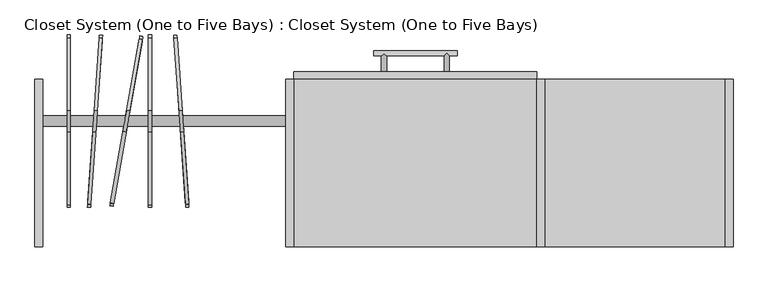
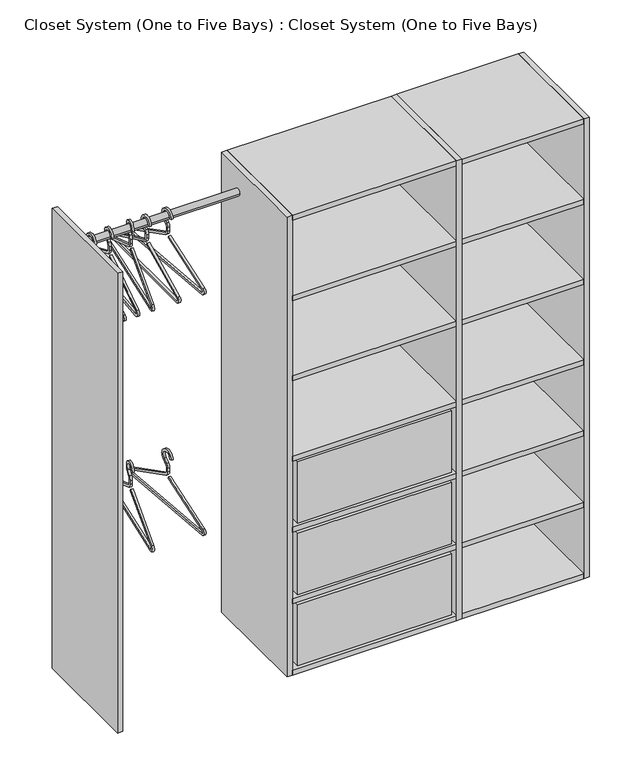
"""IFC4 building model written with IfcOpenShell, lengths in millimetres: furniture geometry, Closet System (One to Five Bays) : Closet System (One to Five Bays)."""

from ifc_helpers import new_model, si_unit, point, frame, frame_2d, origin, place, context, project, spatial, polyline, circle_curve, ellipse_curve, trimmed, segment, composite_curve, outline, extrude, faceted_brep, source, transform, mapped, element, save
from ifc_brep_helpers import plane_surface, cylinder_surface, advanced_brep


def closet_system_one_to_five_bays_closet_system_one_to_five_4d39121e(model_context):
    return source(origin(), model_context, "Body", "SolidModel", [
        extrude(outline(polyline([(1695.45, 0.0), (1676.4, 0.0), (1676.4, 406.4), (1695.45, 406.4), (1695.45, 0.0)])), frame((0.0, 0.0, 82.55), z_axis=(0.0, 0.0, 1.0), x_axis=(1.0, 0.0, 0.0)), (0.0, 0.0, 1.0), 1746.25),
        extrude(outline(polyline([(1238.25, 0.0), (1219.2, 0.0), (1219.2, 406.4), (1238.25, 406.4), (1238.25, 0.0)])), frame((0.0, 0.0, 82.55), z_axis=(0.0, 0.0, 1.0), x_axis=(1.0, 0.0, 0.0)), (0.0, 0.0, 1.0), 1746.25),
        extrude(outline(polyline([(628.65, 0.0), (609.6, 0.0), (609.6, 406.4), (628.65, 406.4), (628.65, 0.0)])), frame((0.0, 0.0, 82.55), z_axis=(0.0, 0.0, 1.0), x_axis=(1.0, 0.0, 0.0)), (0.0, 0.0, 1.0), 1746.25),
        extrude(outline(polyline([(19.05, 0.0), (0.0, 0.0), (0.0, 406.4), (19.05, 406.4), (19.05, 0.0)])), frame((0.0, 0.0, 82.55), z_axis=(0.0, 0.0, 1.0), x_axis=(1.0, 0.0, 0.0)), (0.0, 0.0, 1.0), 1746.25),
        faceted_brep([(1238.25, 406.4, 1200.15), (1238.25, 387.35, 1200.15), (1238.25, 0.0, 1200.15), (1238.25, 0.0, 1219.2), (1238.25, 387.35, 1219.2), (1238.25, 406.4, 1219.2), (1676.4, 0.0, 1200.15), (1676.4, 387.35, 1200.15), (1676.4, 406.4, 1200.15), (1676.4, 406.4, 1219.2), (1676.4, 387.35, 1219.2), (1676.4, 0.0, 1219.2)], [[[0, 1, 2, 3, 4, 5]], [[6, 7, 8, 9, 10, 11]], [[2, 1, 0, 8, 7, 6]], [[5, 9, 8, 0]], [[5, 4, 3, 11, 10, 9]], [[2, 6, 11, 3]]]),
        faceted_brep([(1238.25, 406.4, 1504.95), (1238.25, 387.35, 1504.95), (1238.25, 0.0, 1504.95), (1238.25, 0.0, 1524.0), (1238.25, 387.35, 1524.0), (1238.25, 406.4, 1524.0), (1676.4, 0.0, 1504.95), (1676.4, 387.35, 1504.95), (1676.4, 406.4, 1504.95), (1676.4, 406.4, 1524.0), (1676.4, 387.35, 1524.0), (1676.4, 0.0, 1524.0)], [[[0, 1, 2, 3, 4, 5]], [[6, 7, 8, 9, 10, 11]], [[2, 1, 0, 8, 7, 6]], [[5, 9, 8, 0]], [[5, 4, 3, 11, 10, 9]], [[2, 6, 11, 3]]]),
        faceted_brep([(1238.25, 406.4, 624.4166667), (1238.25, 387.35, 624.4166667), (1238.25, 0.0, 624.4166667), (1238.25, 0.0, 643.4666667), (1238.25, 387.35, 643.4666667), (1238.25, 406.4, 643.4666667), (1676.4, 0.0, 624.4166667), (1676.4, 387.35, 624.4166667), (1676.4, 406.4, 624.4166667), (1676.4, 406.4, 643.4666667), (1676.4, 387.35, 643.4666667), (1676.4, 0.0, 643.4666667)], [[[0, 1, 2, 3, 4, 5]], [[6, 7, 8, 9, 10, 11]], [[2, 1, 0, 8, 7, 6]], [[5, 9, 8, 0]], [[5, 4, 3, 11, 10, 9]], [[2, 6, 11, 3]]]),
        faceted_brep([(1238.25, 406.4, 353.4833333), (1238.25, 387.35, 353.4833333), (1238.25, 0.0, 353.4833333), (1238.25, 0.0, 372.5333333), (1238.25, 387.35, 372.5333333), (1238.25, 406.4, 372.5333333), (1676.4, 0.0, 372.5333333), (1676.4, 387.35, 372.5333333), (1676.4, 406.4, 372.5333333), (1676.4, 0.0, 353.4833333), (1676.4, 387.35, 353.4833333), (1676.4, 406.4, 353.4833333)], [[[0, 1, 2, 3, 4, 5]], [[5, 4, 3, 6, 7, 8]], [[2, 9, 6, 3]], [[9, 10, 11, 8, 7, 6]], [[2, 1, 0, 11, 10, 9]], [[5, 8, 11, 0]]]),
        faceted_brep([(1238.25, 406.4, 82.55), (1238.25, 387.35, 82.55), (1238.25, 0.0, 82.55), (1238.25, 0.0, 101.6), (1238.25, 387.35, 101.6), (1238.25, 406.4, 101.6), (1676.4, 0.0, 82.55), (1676.4, 387.35, 82.55), (1676.4, 406.4, 82.55), (1676.4, 406.4, 101.6), (1676.4, 387.35, 101.6), (1676.4, 0.0, 101.6)], [[[0, 1, 2, 3, 4, 5]], [[6, 7, 8, 9, 10, 11]], [[2, 1, 0, 8, 7, 6]], [[5, 9, 8, 0]], [[5, 4, 3, 11, 10, 9]], [[2, 6, 11, 3]]]),
        extrude(outline(polyline([(1676.4, 406.4), (1676.4, 0.0), (1238.25, 0.0), (1238.25, 406.4), (1676.4, 406.4)])), frame((0.0, 0.0, 895.35), z_axis=(0.0, 0.0, 1.0), x_axis=(1.0, 0.0, 0.0)), (0.0, 0.0, 1.0), 19.05),
        extrude(outline(polyline([(1676.4, 406.4), (1676.4, 0.0), (1238.25, 0.0), (1238.25, 406.4), (1676.4, 406.4)])), frame((0.0, 0.0, 1809.75), z_axis=(0.0, 0.0, 1.0), x_axis=(1.0, 0.0, 0.0)), (0.0, 0.0, 1.0), 19.05),
        advanced_brep(
        [(1006.475, 425.45, 769.4083333), (993.775, 425.45, 769.4083333), (1006.475, 463.55, 769.4083333), (1000.125, 469.9, 775.7583333), (993.775, 463.55, 769.4083333), (1000.125, 469.9, 763.0583333), (1025.525, 463.55, 769.4083333), (1025.525, 476.25, 769.4083333), (822.325, 463.55, 769.4083333), (822.325, 476.25, 769.4083333), (841.375, 463.55, 769.4083333), (847.725, 469.9, 775.7583333), (854.075, 463.55, 769.4083333), (847.725, 469.9, 763.0583333), (841.375, 425.45, 769.4083333), (854.075, 425.45, 769.4083333)],
        [
            (0, 1, circle_curve(frame((1000.125, 425.45, 769.4083333), z_axis=(0.0, -1.0, 0.0), x_axis=(-1.0, 0.0, 0.0)), 6.35)),
            (1, 0, circle_curve(frame((1000.125, 425.45, 769.4083333), z_axis=(0.0, -1.0, 0.0), x_axis=(-1.0, 0.0, 0.0)), 6.35)),
            (0, 2),
            (2, 3, ellipse_curve(frame((1000.125, 469.9, 769.4083333), z_axis=(-0.7071067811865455, -0.7071067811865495, 0.0), x_axis=(-0.7071067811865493, 0.7071067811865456, 0.0)), 8.9802561, 6.35)),
            (3, 4, ellipse_curve(frame((1000.125, 469.9, 769.4083333), z_axis=(0.7071067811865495, -0.7071067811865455, 0.0), x_axis=(0.7071067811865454, 0.7071067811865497, 0.0)), 8.9802561, 6.35)),
            (4, 1),
            (4, 5, ellipse_curve(frame((1000.125, 469.9, 769.4083333), z_axis=(0.7071067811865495, -0.7071067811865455, 0.0), x_axis=(0.7071067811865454, 0.7071067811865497, 0.0)), 8.9802561, 6.35)),
            (5, 2, ellipse_curve(frame((1000.125, 469.9, 769.4083333), z_axis=(-0.7071067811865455, -0.7071067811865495, 0.0), x_axis=(-0.7071067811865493, 0.7071067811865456, 0.0)), 8.9802561, 6.35)),
            (6, 7, circle_curve(frame((1025.525, 469.9, 769.4083333), z_axis=(1.0, 0.0, 0.0), x_axis=(0.0, 1.0, 0.0)), 6.35)),
            (7, 6, circle_curve(frame((1025.525, 469.9, 769.4083333), z_axis=(1.0, 0.0, 0.0), x_axis=(0.0, 1.0, 0.0)), 6.35)),
            (8, 9, circle_curve(frame((822.325, 469.9, 769.4083333), z_axis=(-1.0, 0.0, 0.0), x_axis=(0.0, 1.0, 0.0)), 6.35)),
            (9, 8, circle_curve(frame((822.325, 469.9, 769.4083333), z_axis=(-1.0, 0.0, 0.0), x_axis=(0.0, 1.0, 0.0)), 6.35)),
            (7, 9),
            (8, 10),
            (10, 11, ellipse_curve(frame((847.725, 469.9, 769.4083333), z_axis=(-0.7071067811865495, 0.7071067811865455, 0.0), x_axis=(0.7071067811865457, 0.7071067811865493, 0.0)), 8.9802561, 6.35)),
            (11, 12, ellipse_curve(frame((847.725, 469.9, 769.4083333), z_axis=(0.7071067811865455, 0.7071067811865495, 0.0), x_axis=(0.7071067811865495, -0.7071067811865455, 0.0)), 8.9802561, 6.35)),
            (12, 4),
            (2, 6),
            (12, 13, ellipse_curve(frame((847.725, 469.9, 769.4083333), z_axis=(0.7071067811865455, 0.7071067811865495, 0.0), x_axis=(0.7071067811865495, -0.7071067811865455, 0.0)), 8.9802561, 6.35)),
            (13, 10, ellipse_curve(frame((847.725, 469.9, 769.4083333), z_axis=(-0.7071067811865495, 0.7071067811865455, 0.0), x_axis=(0.7071067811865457, 0.7071067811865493, 0.0)), 8.9802561, 6.35)),
            (14, 15, circle_curve(frame((847.725, 425.45, 769.4083333), z_axis=(0.0, -1.0, 0.0), x_axis=(1.0, 0.0, 0.0)), 6.35)),
            (15, 14, circle_curve(frame((847.725, 425.45, 769.4083333), z_axis=(0.0, -1.0, 0.0), x_axis=(1.0, 0.0, 0.0)), 6.35)),
            (15, 12),
            (10, 14),
        ],
        [
            plane_surface(frame((1000.125, 425.45, 769.4083333), z_axis=(0.0, -1.0, 0.0), x_axis=(0.0, 0.0, 1.0))),
            cylinder_surface(frame((1000.125, 469.9, 769.4083333), z_axis=(0.0, 1.0, 0.0), x_axis=(-1.0, 0.0, 0.0)), 6.35),
            plane_surface(frame((1025.525, 469.9, 769.4083333), z_axis=(1.0, 0.0, 0.0), x_axis=(0.0, 0.0, 1.0))),
            plane_surface(frame((822.325, 469.9, 769.4083333), z_axis=(-1.0, 0.0, 0.0), x_axis=(0.0, 0.0, 1.0))),
            cylinder_surface(frame((1025.525, 469.9, 769.4083333), z_axis=(1.0, 0.0, 0.0), x_axis=(0.0, 1.0, 0.0)), 6.35),
            plane_surface(frame((847.725, 425.45, 769.4083333), z_axis=(0.0, -1.0, 0.0), x_axis=(0.0, 0.0, 1.0))),
            cylinder_surface(frame((847.725, 469.9, 769.4083333), z_axis=(0.0, 1.0, 0.0), x_axis=(1.0, 0.0, 0.0)), 6.35),
        ],
        [
            (0, [[1, 2]]),
            (1, [[3, 4, 5, 6, -1]]),
            (1, [[-6, 7, 8, -3, -2]]),
            (2, [[9, 10]]),
            (3, [[11, 12]]),
            (4, [[13, -11, 14, 15, 16, 17, -5, -4, 18, -10]]),
            (4, [[-18, -8, -7, -17, 19, 20, -14, -12, -13, -9]]),
            (5, [[21, 22]]),
            (6, [[23, -16, -15, 24, -22]]),
            (6, [[-24, -20, -19, -23, -21]]),
        ],
    ),
        extrude(outline(polyline([(1219.2, 425.45), (1219.2, 406.4), (628.65, 406.4), (628.65, 425.45), (1219.2, 425.45)])), frame((0.0, 0.0, 633.9416667), z_axis=(0.0, 0.0, 1.0), x_axis=(1.0, 0.0, 0.0)), (0.0, 0.0, 1.0), 270.9333333),
        faceted_brep([(1200.15, 0.0, 885.825), (1200.15, 406.4, 885.825), (647.7, 406.4, 885.825), (647.7, 0.0, 885.825), (1181.1, 19.05, 885.825), (666.75, 19.05, 885.825), (666.75, 387.35, 885.825), (1181.1, 387.35, 885.825), (1200.15, 0.0, 652.9916667), (647.7, 0.0, 652.9916667), (647.7, 406.4, 652.9916667), (1200.15, 406.4, 652.9916667), (1181.1, 387.35, 662.5166667), (1181.1, 19.05, 662.5166667), (666.75, 387.35, 662.5166667), (666.75, 19.05, 662.5166667)], [[[0, 1, 2, 3], [4, 5, 6, 7]], [[8, 9, 10, 11]], [[3, 9, 8, 0]], [[2, 10, 9, 3]], [[1, 11, 10, 2]], [[0, 8, 11, 1]], [[7, 12, 13, 4]], [[6, 14, 12, 7]], [[5, 15, 14, 6]], [[4, 13, 15, 5]], [[12, 14, 15, 13]]]),
        advanced_brep(
        [(1006.475, 425.45, 498.475), (993.775, 425.45, 498.475), (1006.475, 463.55, 498.475), (1000.125, 469.9, 504.825), (993.775, 463.55, 498.475), (1000.125, 469.9, 492.125), (1025.525, 463.55, 498.475), (1025.525, 476.25, 498.475), (822.325, 463.55, 498.475), (822.325, 476.25, 498.475), (841.375, 463.55, 498.475), (847.725, 469.9, 504.825), (854.075, 463.55, 498.475), (847.725, 469.9, 492.125), (841.375, 425.45, 498.475), (854.075, 425.45, 498.475)],
        [
            (0, 1, circle_curve(frame((1000.125, 425.45, 498.475), z_axis=(0.0, -1.0, 0.0), x_axis=(-1.0, 0.0, 0.0)), 6.35)),
            (1, 0, circle_curve(frame((1000.125, 425.45, 498.475), z_axis=(0.0, -1.0, 0.0), x_axis=(-1.0, 0.0, 0.0)), 6.35)),
            (0, 2),
            (2, 3, ellipse_curve(frame((1000.125, 469.9, 498.475), z_axis=(-0.7071067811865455, -0.7071067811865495, 0.0), x_axis=(-0.7071067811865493, 0.7071067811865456, 0.0)), 8.9802561, 6.35)),
            (3, 4, ellipse_curve(frame((1000.125, 469.9, 498.475), z_axis=(0.7071067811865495, -0.7071067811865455, 0.0), x_axis=(0.7071067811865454, 0.7071067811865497, 0.0)), 8.9802561, 6.35)),
            (4, 1),
            (4, 5, ellipse_curve(frame((1000.125, 469.9, 498.475), z_axis=(0.7071067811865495, -0.7071067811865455, 0.0), x_axis=(0.7071067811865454, 0.7071067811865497, 0.0)), 8.9802561, 6.35)),
            (5, 2, ellipse_curve(frame((1000.125, 469.9, 498.475), z_axis=(-0.7071067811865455, -0.7071067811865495, 0.0), x_axis=(-0.7071067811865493, 0.7071067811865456, 0.0)), 8.9802561, 6.35)),
            (6, 7, circle_curve(frame((1025.525, 469.9, 498.475), z_axis=(1.0, 0.0, 0.0), x_axis=(0.0, 1.0, 0.0)), 6.35)),
            (7, 6, circle_curve(frame((1025.525, 469.9, 498.475), z_axis=(1.0, 0.0, 0.0), x_axis=(0.0, 1.0, 0.0)), 6.35)),
            (8, 9, circle_curve(frame((822.325, 469.9, 498.475), z_axis=(-1.0, 0.0, 0.0), x_axis=(0.0, 1.0, 0.0)), 6.35)),
            (9, 8, circle_curve(frame((822.325, 469.9, 498.475), z_axis=(-1.0, 0.0, 0.0), x_axis=(0.0, 1.0, 0.0)), 6.35)),
            (7, 9),
            (8, 10),
            (10, 11, ellipse_curve(frame((847.725, 469.9, 498.475), z_axis=(-0.7071067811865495, 0.7071067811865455, 0.0), x_axis=(0.7071067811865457, 0.7071067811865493, 0.0)), 8.9802561, 6.35)),
            (11, 12, ellipse_curve(frame((847.725, 469.9, 498.475), z_axis=(0.7071067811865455, 0.7071067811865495, 0.0), x_axis=(0.7071067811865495, -0.7071067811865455, 0.0)), 8.9802561, 6.35)),
            (12, 4),
            (2, 6),
            (12, 13, ellipse_curve(frame((847.725, 469.9, 498.475), z_axis=(0.7071067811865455, 0.7071067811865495, 0.0), x_axis=(0.7071067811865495, -0.7071067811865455, 0.0)), 8.9802561, 6.35)),
            (13, 10, ellipse_curve(frame((847.725, 469.9, 498.475), z_axis=(-0.7071067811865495, 0.7071067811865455, 0.0), x_axis=(0.7071067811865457, 0.7071067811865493, 0.0)), 8.9802561, 6.35)),
            (14, 15, circle_curve(frame((847.725, 425.45, 498.475), z_axis=(0.0, -1.0, 0.0), x_axis=(1.0, 0.0, 0.0)), 6.35)),
            (15, 14, circle_curve(frame((847.725, 425.45, 498.475), z_axis=(0.0, -1.0, 0.0), x_axis=(1.0, 0.0, 0.0)), 6.35)),
            (15, 12),
            (10, 14),
        ],
        [
            plane_surface(frame((1000.125, 425.45, 498.475), z_axis=(0.0, -1.0, 0.0), x_axis=(0.0, 0.0, 1.0))),
            cylinder_surface(frame((1000.125, 469.9, 498.475), z_axis=(0.0, 1.0, 0.0), x_axis=(-1.0, 0.0, 0.0)), 6.35),
            plane_surface(frame((1025.525, 469.9, 498.475), z_axis=(1.0, 0.0, 0.0), x_axis=(0.0, 0.0, 1.0))),
            plane_surface(frame((822.325, 469.9, 498.475), z_axis=(-1.0, 0.0, 0.0), x_axis=(0.0, 0.0, 1.0))),
            cylinder_surface(frame((1025.525, 469.9, 498.475), z_axis=(1.0, 0.0, 0.0), x_axis=(0.0, 1.0, 0.0)), 6.35),
            plane_surface(frame((847.725, 425.45, 498.475), z_axis=(0.0, -1.0, 0.0), x_axis=(0.0, 0.0, 1.0))),
            cylinder_surface(frame((847.725, 469.9, 498.475), z_axis=(0.0, 1.0, 0.0), x_axis=(1.0, 0.0, 0.0)), 6.35),
        ],
        [
            (0, [[1, 2]]),
            (1, [[3, 4, 5, 6, -1]]),
            (1, [[-6, 7, 8, -3, -2]]),
            (2, [[9, 10]]),
            (3, [[11, 12]]),
            (4, [[13, -11, 14, 15, 16, 17, -5, -4, 18, -10]]),
            (4, [[-18, -8, -7, -17, 19, 20, -14, -12, -13, -9]]),
            (5, [[21, 22]]),
            (6, [[23, -16, -15, 24, -22]]),
            (6, [[-24, -20, -19, -23, -21]]),
        ],
    ),
        extrude(outline(polyline([(1219.2, 425.45), (1219.2, 406.4), (628.65, 406.4), (628.65, 425.45), (1219.2, 425.45)])), frame((0.0, 0.0, 363.0083333), z_axis=(0.0, 0.0, 1.0), x_axis=(1.0, 0.0, 0.0)), (0.0, 0.0, 1.0), 270.9333333),
        faceted_brep([(1200.15, 0.0, 614.8916667), (1200.15, 406.4, 614.8916667), (647.7, 406.4, 614.8916667), (647.7, 0.0, 614.8916667), (1181.1, 19.05, 614.8916667), (666.75, 19.05, 614.8916667), (666.75, 387.35, 614.8916667), (1181.1, 387.35, 614.8916667), (1200.15, 0.0, 382.0583333), (647.7, 0.0, 382.0583333), (647.7, 406.4, 382.0583333), (1200.15, 406.4, 382.0583333), (1181.1, 387.35, 391.5833333), (1181.1, 19.05, 391.5833333), (666.75, 387.35, 391.5833333), (666.75, 19.05, 391.5833333)], [[[0, 1, 2, 3], [4, 5, 6, 7]], [[8, 9, 10, 11]], [[3, 9, 8, 0]], [[2, 10, 9, 3]], [[1, 11, 10, 2]], [[0, 8, 11, 1]], [[7, 12, 13, 4]], [[6, 14, 12, 7]], [[5, 15, 14, 6]], [[4, 13, 15, 5]], [[12, 14, 15, 13]]]),
        advanced_brep(
        [(1006.475, 425.45, 227.5416667), (993.775, 425.45, 227.5416667), (1006.475, 463.55, 227.5416667), (1000.125, 469.9, 233.8916667), (993.775, 463.55, 227.5416667), (1000.125, 469.9, 221.1916667), (1025.525, 463.55, 227.5416667), (1025.525, 476.25, 227.5416667), (822.325, 463.55, 227.5416667), (822.325, 476.25, 227.5416667), (841.375, 463.55, 227.5416667), (847.725, 469.9, 233.8916667), (854.075, 463.55, 227.5416667), (847.725, 469.9, 221.1916667), (841.375, 425.45, 227.5416667), (854.075, 425.45, 227.5416667)],
        [
            (0, 1, circle_curve(frame((1000.125, 425.45, 227.5416667), z_axis=(0.0, -1.0, 0.0), x_axis=(-1.0, 0.0, 0.0)), 6.35)),
            (1, 0, circle_curve(frame((1000.125, 425.45, 227.5416667), z_axis=(0.0, -1.0, 0.0), x_axis=(-1.0, 0.0, 0.0)), 6.35)),
            (0, 2),
            (2, 3, ellipse_curve(frame((1000.125, 469.9, 227.5416667), z_axis=(-0.7071067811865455, -0.7071067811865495, 0.0), x_axis=(-0.7071067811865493, 0.7071067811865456, 0.0)), 8.9802561, 6.35)),
            (3, 4, ellipse_curve(frame((1000.125, 469.9, 227.5416667), z_axis=(0.7071067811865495, -0.7071067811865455, 0.0), x_axis=(0.7071067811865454, 0.7071067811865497, 0.0)), 8.9802561, 6.35)),
            (4, 1),
            (4, 5, ellipse_curve(frame((1000.125, 469.9, 227.5416667), z_axis=(0.7071067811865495, -0.7071067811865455, 0.0), x_axis=(0.7071067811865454, 0.7071067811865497, 0.0)), 8.9802561, 6.35)),
            (5, 2, ellipse_curve(frame((1000.125, 469.9, 227.5416667), z_axis=(-0.7071067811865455, -0.7071067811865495, 0.0), x_axis=(-0.7071067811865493, 0.7071067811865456, 0.0)), 8.9802561, 6.35)),
            (6, 7, circle_curve(frame((1025.525, 469.9, 227.5416667), z_axis=(1.0, 0.0, 0.0), x_axis=(0.0, 1.0, 0.0)), 6.35)),
            (7, 6, circle_curve(frame((1025.525, 469.9, 227.5416667), z_axis=(1.0, 0.0, 0.0), x_axis=(0.0, 1.0, 0.0)), 6.35)),
            (8, 9, circle_curve(frame((822.325, 469.9, 227.5416667), z_axis=(-1.0, 0.0, 0.0), x_axis=(0.0, 1.0, 0.0)), 6.35)),
            (9, 8, circle_curve(frame((822.325, 469.9, 227.5416667), z_axis=(-1.0, 0.0, 0.0), x_axis=(0.0, 1.0, 0.0)), 6.35)),
            (7, 9),
            (8, 10),
            (10, 11, ellipse_curve(frame((847.725, 469.9, 227.5416667), z_axis=(-0.7071067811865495, 0.7071067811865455, 0.0), x_axis=(0.7071067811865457, 0.7071067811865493, 0.0)), 8.9802561, 6.35)),
            (11, 12, ellipse_curve(frame((847.725, 469.9, 227.5416667), z_axis=(0.7071067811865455, 0.7071067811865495, 0.0), x_axis=(0.7071067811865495, -0.7071067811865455, 0.0)), 8.9802561, 6.35)),
            (12, 4),
            (2, 6),
            (12, 13, ellipse_curve(frame((847.725, 469.9, 227.5416667), z_axis=(0.7071067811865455, 0.7071067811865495, 0.0), x_axis=(0.7071067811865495, -0.7071067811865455, 0.0)), 8.9802561, 6.35)),
            (13, 10, ellipse_curve(frame((847.725, 469.9, 227.5416667), z_axis=(-0.7071067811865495, 0.7071067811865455, 0.0), x_axis=(0.7071067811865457, 0.7071067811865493, 0.0)), 8.9802561, 6.35)),
            (14, 15, circle_curve(frame((847.725, 425.45, 227.5416667), z_axis=(0.0, -1.0, 0.0), x_axis=(1.0, 0.0, 0.0)), 6.35)),
            (15, 14, circle_curve(frame((847.725, 425.45, 227.5416667), z_axis=(0.0, -1.0, 0.0), x_axis=(1.0, 0.0, 0.0)), 6.35)),
            (15, 12),
            (10, 14),
        ],
        [
            plane_surface(frame((1000.125, 425.45, 227.5416667), z_axis=(0.0, -1.0, 0.0), x_axis=(0.0, 0.0, 1.0))),
            cylinder_surface(frame((1000.125, 469.9, 227.5416667), z_axis=(0.0, 1.0, 0.0), x_axis=(-1.0, 0.0, 0.0)), 6.35),
            plane_surface(frame((1025.525, 469.9, 227.5416667), z_axis=(1.0, 0.0, 0.0), x_axis=(0.0, 0.0, 1.0))),
            plane_surface(frame((822.325, 469.9, 227.5416667), z_axis=(-1.0, 0.0, 0.0), x_axis=(0.0, 0.0, 1.0))),
            cylinder_surface(frame((1025.525, 469.9, 227.5416667), z_axis=(1.0, 0.0, 0.0), x_axis=(0.0, 1.0, 0.0)), 6.35),
            plane_surface(frame((847.725, 425.45, 227.5416667), z_axis=(0.0, -1.0, 0.0), x_axis=(0.0, 0.0, 1.0))),
            cylinder_surface(frame((847.725, 469.9, 227.5416667), z_axis=(0.0, 1.0, 0.0), x_axis=(1.0, 0.0, 0.0)), 6.35),
        ],
        [
            (0, [[1, 2]]),
            (1, [[3, 4, 5, 6, -1]]),
            (1, [[-6, 7, 8, -3, -2]]),
            (2, [[9, 10]]),
            (3, [[11, 12]]),
            (4, [[13, -11, 14, 15, 16, 17, -5, -4, 18, -10]]),
            (4, [[-18, -8, -7, -17, 19, 20, -14, -12, -13, -9]]),
            (5, [[21, 22]]),
            (6, [[23, -16, -15, 24, -22]]),
            (6, [[-24, -20, -19, -23, -21]]),
        ],
    ),
        extrude(outline(polyline([(1219.2, 425.45), (1219.2, 406.4), (628.65, 406.4), (628.65, 425.45), (1219.2, 425.45)])), frame((0.0, 0.0, 92.075), z_axis=(0.0, 0.0, 1.0), x_axis=(1.0, 0.0, 0.0)), (0.0, 0.0, 1.0), 270.9333333),
        faceted_brep([(1200.15, 0.0, 343.9583333), (1200.15, 406.4, 343.9583333), (647.7, 406.4, 343.9583333), (647.7, 0.0, 343.9583333), (1181.1, 19.05, 343.9583333), (666.75, 19.05, 343.9583333), (666.75, 387.35, 343.9583333), (1181.1, 387.35, 343.9583333), (1200.15, 0.0, 111.125), (647.7, 0.0, 111.125), (647.7, 406.4, 111.125), (1200.15, 406.4, 111.125), (1181.1, 387.35, 120.65), (1181.1, 19.05, 120.65), (666.75, 387.35, 120.65), (666.75, 19.05, 120.65)], [[[0, 1, 2, 3], [4, 5, 6, 7]], [[8, 9, 10, 11]], [[3, 9, 8, 0]], [[2, 10, 9, 3]], [[1, 11, 10, 2]], [[0, 8, 11, 1]], [[7, 12, 13, 4]], [[6, 14, 12, 7]], [[5, 15, 14, 6]], [[4, 13, 15, 5]], [[12, 14, 15, 13]]]),
        faceted_brep([(628.65, 406.4, 1200.15), (628.65, 387.35, 1200.15), (628.65, 0.0, 1200.15), (628.65, 0.0, 1219.2), (628.65, 387.35, 1219.2), (628.65, 406.4, 1219.2), (1219.2, 0.0, 1200.15), (1219.2, 387.35, 1200.15), (1219.2, 406.4, 1200.15), (1219.2, 406.4, 1219.2), (1219.2, 387.35, 1219.2), (1219.2, 0.0, 1219.2)], [[[0, 1, 2, 3, 4, 5]], [[6, 7, 8, 9, 10, 11]], [[2, 1, 0, 8, 7, 6]], [[5, 9, 8, 0]], [[5, 4, 3, 11, 10, 9]], [[2, 6, 11, 3]]]),
        faceted_brep([(628.65, 406.4, 1504.95), (628.65, 387.35, 1504.95), (628.65, 0.0, 1504.95), (628.65, 0.0, 1524.0), (628.65, 387.35, 1524.0), (628.65, 406.4, 1524.0), (1219.2, 0.0, 1504.95), (1219.2, 387.35, 1504.95), (1219.2, 406.4, 1504.95), (1219.2, 406.4, 1524.0), (1219.2, 387.35, 1524.0), (1219.2, 0.0, 1524.0)], [[[0, 1, 2, 3, 4, 5]], [[6, 7, 8, 9, 10, 11]], [[2, 1, 0, 8, 7, 6]], [[5, 9, 8, 0]], [[5, 4, 3, 11, 10, 9]], [[2, 6, 11, 3]]]),
        faceted_brep([(628.65, 406.4, 624.4166667), (628.65, 387.35, 624.4166667), (628.65, 0.0, 624.4166667), (628.65, 0.0, 643.4666667), (628.65, 387.35, 643.4666667), (628.65, 406.4, 643.4666667), (1219.2, 0.0, 624.4166667), (1219.2, 387.35, 624.4166667), (1219.2, 406.4, 624.4166667), (1219.2, 406.4, 643.4666667), (1219.2, 387.35, 643.4666667), (1219.2, 0.0, 643.4666667)], [[[0, 1, 2, 3, 4, 5]], [[6, 7, 8, 9, 10, 11]], [[2, 1, 0, 8, 7, 6]], [[5, 9, 8, 0]], [[5, 4, 3, 11, 10, 9]], [[2, 6, 11, 3]]]),
        faceted_brep([(628.65, 406.4, 353.4833333), (628.65, 387.35, 353.4833333), (628.65, 0.0, 353.4833333), (628.65, 0.0, 372.5333333), (628.65, 387.35, 372.5333333), (628.65, 406.4, 372.5333333), (1219.2, 0.0, 353.4833333), (1219.2, 387.35, 353.4833333), (1219.2, 406.4, 353.4833333), (1219.2, 406.4, 372.5333333), (1219.2, 387.35, 372.5333333), (1219.2, 0.0, 372.5333333)], [[[0, 1, 2, 3, 4, 5]], [[6, 7, 8, 9, 10, 11]], [[2, 1, 0, 8, 7, 6]], [[5, 9, 8, 0]], [[5, 4, 3, 11, 10, 9]], [[2, 6, 11, 3]]]),
        faceted_brep([(628.65, 406.4, 82.55), (628.65, 387.35, 82.55), (628.65, 0.0, 82.55), (628.65, 0.0, 101.6), (628.65, 387.35, 101.6), (628.65, 406.4, 101.6), (1219.2, 0.0, 82.55), (1219.2, 387.35, 82.55), (1219.2, 406.4, 82.55), (1219.2, 406.4, 101.6), (1219.2, 387.35, 101.6), (1219.2, 0.0, 101.6)], [[[0, 1, 2, 3, 4, 5]], [[6, 7, 8, 9, 10, 11]], [[2, 1, 0, 8, 7, 6]], [[5, 9, 8, 0]], [[5, 4, 3, 11, 10, 9]], [[2, 6, 11, 3]]]),
        extrude(outline(polyline([(1219.2, 406.4), (1219.2, 0.0), (628.65, 0.0), (628.65, 406.4), (1219.2, 406.4)])), frame((0.0, 0.0, 895.35), z_axis=(0.0, 0.0, 1.0), x_axis=(1.0, 0.0, 0.0)), (0.0, 0.0, 1.0), 19.05),
        extrude(outline(polyline([(1219.2, 406.4), (1219.2, 0.0), (628.65, 0.0), (628.65, 406.4), (1219.2, 406.4)])), frame((0.0, 0.0, 1809.75), z_axis=(0.0, 0.0, 1.0), x_axis=(1.0, 0.0, 0.0)), (0.0, 0.0, 1.0), 19.05),
        extrude(outline(composite_curve([segment(polyline([(0.0, 7.62), (209.55, 7.62)]), True, "CONTINUOUS"), segment(trimmed(circle_curve(frame_2d((209.55, -5.08)), 12.7), [point((209.55, 7.62))], [point((215.0168758, -16.5431265))], False, "CARTESIAN"), True, "CONTINUOUS"), segment(polyline([(215.0168758, -16.5431265), (-140.3400452, -186.0162767)]), True, "CONTINUOUS"), segment(trimmed(circle_curve(frame_2d((-145.806921, -174.5531502)), 12.7), [point((-140.3400452, -186.0162767))], [point((-155.675817, -166.559722))], False, "CARTESIAN"), True, "CONTINUOUS"), segment(polyline([(-155.675817, -166.559722), (-19.6406824, 1.3928203)]), True, "CONTINUOUS"), segment(trimmed(circle_curve(frame_2d((-29.5095783, 9.3862485)), 12.7), [point((-19.6406824, 1.3928203))], [point((-18.0464518, 14.8531243))], True, "CARTESIAN"), True, "CONTINUOUS"), segment(polyline([(-18.0464518, 14.8531243), (-24.2041701, 27.7648322)]), True, "CONTINUOUS"), segment(trimmed(circle_curve(frame_2d((-35.6672966, 22.2979563)), 12.7), [point((-24.2041701, 27.7648322))], [point((-31.4273071, 34.2692757))], True, "CARTESIAN"), True, "CONTINUOUS"), segment(polyline([(-31.4273071, 34.2692757), (-50.411263, 40.9929937)]), True, "CONTINUOUS"), segment(trimmed(circle_curve(frame_2d((-41.931284, 64.9356325)), 25.4), [point((-50.411263, 40.9929937))], [point((-19.005031, 75.8693841))], False, "CARTESIAN"), True, "CONTINUOUS"), segment(polyline([(-19.005031, 75.8693841), (-25.882907, 72.5892586)]), True, "CONTINUOUS"), segment(trimmed(circle_curve(frame_2d((-41.931284, 64.9356325)), 17.78), [point((-25.882907, 72.5892586))], [point((-47.8672693, 48.1757852))], True, "CARTESIAN"), True, "CONTINUOUS"), segment(polyline([(-47.8672693, 48.1757852), (-28.8833133, 41.4520674)]), True, "CONTINUOUS"), segment(trimmed(circle_curve(frame_2d((-35.6672966, 22.2979563)), 20.32), [point((-28.8833133, 41.4520674))], [point((-17.3262942, 31.0449576))], False, "CARTESIAN"), True, "CONTINUOUS"), segment(polyline([(-17.3262942, 31.0449576), (-11.1685759, 18.1332497)]), True, "CONTINUOUS"), segment(trimmed(circle_curve(frame_2d((-29.5095783, 9.3862485)), 20.32), [point((-11.1685759, 18.1332497))], [point((-13.7193449, -3.4032366))], False, "CARTESIAN"), True, "CONTINUOUS"), segment(polyline([(-13.7193449, -3.4032366), (-149.7544794, -171.3557789)]), True, "CONTINUOUS"), segment(trimmed(circle_curve(frame_2d((-145.806921, -174.5531502)), 5.08), [point((-149.7544794, -171.3557789))], [point((-143.6201707, -179.1384008))], True, "CARTESIAN"), True, "CONTINUOUS"), segment(polyline([(-143.6201707, -179.1384008), (211.7367503, -9.6652506)]), True, "CONTINUOUS"), segment(trimmed(circle_curve(frame_2d((209.55, -5.08)), 5.08), [point((211.7367503, -9.6652506))], [point((209.55, 0.0))], True, "CARTESIAN"), True, "CONTINUOUS"), segment(polyline([(209.55, 0.0), (0.0, 0.0), (0.0, 7.62)]), True, "CONTINUOUS")], self_intersect=False)), frame((224.2838405, 294.3935669, 1663.2387015), z_axis=(-0.9848077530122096, 0.17364817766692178, 0.0), x_axis=(-0.15673630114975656, -0.8888957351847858, -0.4304626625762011)), (0.0, 0.0, 1.0), 7.62),
        extrude(outline(composite_curve([segment(polyline([(1e-07, 7.62), (209.55, 7.6199999)]), True, "CONTINUOUS"), segment(trimmed(circle_curve(frame_2d((209.55, 12.6999999)), 5.08), [point((209.55, 7.6199999))], [point((211.7367504, 17.2852505))], True, "CARTESIAN"), True, "CONTINUOUS"), segment(polyline([(211.7367504, 17.2852505), (-143.6201707, 186.7584008)]), True, "CONTINUOUS"), segment(trimmed(circle_curve(frame_2d((-145.806921, 182.1731502)), 5.08), [point((-143.6201707, 186.7584008))], [point((-149.7544794, 178.9757789))], True, "CARTESIAN"), True, "CONTINUOUS"), segment(polyline([(-149.7544794, 178.9757789), (-13.7193448, 11.0232366)]), True, "CONTINUOUS"), segment(trimmed(circle_curve(frame_2d((-29.5095783, -1.7662484)), 20.32), [point((-13.7193448, 11.0232366))], [point((-11.1685759, -10.5132497))], False, "CARTESIAN"), True, "CONTINUOUS"), segment(polyline([(-11.1685759, -10.5132497), (-17.3262942, -23.4249576)]), True, "CONTINUOUS"), segment(trimmed(circle_curve(frame_2d((-35.6672966, -14.6779563)), 20.32), [point((-17.3262942, -23.4249576))], [point((-28.8833133, -33.8320674))], False, "CARTESIAN"), True, "CONTINUOUS"), segment(polyline([(-28.8833133, -33.8320674), (-47.8672693, -40.5557852)]), True, "CONTINUOUS"), segment(trimmed(circle_curve(frame_2d((-41.931284, -57.3156325)), 17.78), [point((-47.8672693, -40.5557852))], [point((-25.8829069, -64.9692586))], True, "CARTESIAN"), True, "CONTINUOUS"), segment(polyline([(-25.8829069, -64.9692586), (-19.0050311, -68.2493841)]), True, "CONTINUOUS"), segment(trimmed(circle_curve(frame_2d((-41.931284, -57.3156325)), 25.4), [point((-19.0050311, -68.2493841))], [point((-50.4112631, -33.3729936))], False, "CARTESIAN"), True, "CONTINUOUS"), segment(polyline([(-50.4112631, -33.3729936), (-31.427307, -26.6492757)]), True, "CONTINUOUS"), segment(trimmed(circle_curve(frame_2d((-35.6672966, -14.6779563)), 12.7), [point((-31.427307, -26.6492757))], [point((-24.20417, -20.1448322))], True, "CARTESIAN"), True, "CONTINUOUS"), segment(polyline([(-24.20417, -20.1448322), (-18.0464518, -7.2331243)]), True, "CONTINUOUS"), segment(trimmed(circle_curve(frame_2d((-29.5095783, -1.7662484)), 12.7), [point((-18.0464518, -7.2331243))], [point((-19.6406824, 6.2271797))], True, "CARTESIAN"), True, "CONTINUOUS"), segment(polyline([(-19.6406824, 6.2271797), (-155.6758169, 174.179722)]), True, "CONTINUOUS"), segment(trimmed(circle_curve(frame_2d((-145.806921, 182.1731502)), 12.7), [point((-155.6758169, 174.179722))], [point((-140.3400452, 193.6362767))], False, "CARTESIAN"), True, "CONTINUOUS"), segment(polyline([(-140.3400452, 193.6362767), (215.0168759, 24.1631264)]), True, "CONTINUOUS"), segment(trimmed(circle_curve(frame_2d((209.55, 12.6999999)), 12.7), [point((215.0168759, 24.1631264))], [point((209.55, 0.0))], False, "CARTESIAN"), True, "CONTINUOUS"), segment(polyline([(209.55, 0.0), (0.0, 0.0), (1e-07, 7.62)]), True, "CONTINUOUS")], self_intersect=False)), frame((352.7183427, 291.3910334, 1670.1165774), z_axis=(0.9975640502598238, 0.0697564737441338, 0.0), x_axis=(0.06296277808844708, -0.9004096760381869, -0.4304626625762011)), (0.0, 0.0, 1.0), 7.62),
        extrude(outline(composite_curve([segment(polyline([(-1e-07, 7.62), (209.5499999, 7.62)]), True, "CONTINUOUS"), segment(trimmed(circle_curve(frame_2d((209.55, -5.08)), 12.7), [point((209.5499999, 7.62))], [point((215.0168758, -16.5431265))], False, "CARTESIAN"), True, "CONTINUOUS"), segment(polyline([(215.0168758, -16.5431265), (-140.3400453, -186.0162767)]), True, "CONTINUOUS"), segment(trimmed(circle_curve(frame_2d((-145.8069211, -174.5531502)), 12.7), [point((-140.3400453, -186.0162767))], [point((-155.675817, -166.5597221))], False, "CARTESIAN"), True, "CONTINUOUS"), segment(polyline([(-155.675817, -166.5597221), (-19.6406825, 1.3928202)]), True, "CONTINUOUS"), segment(trimmed(circle_curve(frame_2d((-29.5095784, 9.3862484)), 12.7), [point((-19.6406825, 1.3928202))], [point((-18.0464518, 14.8531243))], True, "CARTESIAN"), True, "CONTINUOUS"), segment(polyline([(-18.0464518, 14.8531243), (-24.2041701, 27.7648321)]), True, "CONTINUOUS"), segment(trimmed(circle_curve(frame_2d((-35.6672967, 22.2979563)), 12.7), [point((-24.2041701, 27.7648321))], [point((-31.4273071, 34.2692757))], True, "CARTESIAN"), True, "CONTINUOUS"), segment(polyline([(-31.4273071, 34.2692757), (-50.4112631, 40.9929936)]), True, "CONTINUOUS"), segment(trimmed(circle_curve(frame_2d((-41.931284, 64.9356325)), 25.4), [point((-50.4112631, 40.9929936))], [point((-19.0050311, 75.8693841))], False, "CARTESIAN"), True, "CONTINUOUS"), segment(polyline([(-19.0050311, 75.8693841), (-25.882907, 72.5892586)]), True, "CONTINUOUS"), segment(trimmed(circle_curve(frame_2d((-41.931284, 64.9356325)), 17.78), [point((-25.882907, 72.5892586))], [point((-47.8672694, 48.1757852))], True, "CARTESIAN"), True, "CONTINUOUS"), segment(polyline([(-47.8672694, 48.1757852), (-28.8833134, 41.4520674)]), True, "CONTINUOUS"), segment(trimmed(circle_curve(frame_2d((-35.6672967, 22.2979563)), 20.32), [point((-28.8833134, 41.4520674))], [point((-17.3262943, 31.0449576))], False, "CARTESIAN"), True, "CONTINUOUS"), segment(polyline([(-17.3262943, 31.0449576), (-11.168576, 18.1332497)]), True, "CONTINUOUS"), segment(trimmed(circle_curve(frame_2d((-29.5095784, 9.3862484)), 20.32), [point((-11.168576, 18.1332497))], [point((-13.7193449, -3.4032366))], False, "CARTESIAN"), True, "CONTINUOUS"), segment(polyline([(-13.7193449, -3.4032366), (-149.7544794, -171.355779)]), True, "CONTINUOUS"), segment(trimmed(circle_curve(frame_2d((-145.8069211, -174.5531502)), 5.08), [point((-149.7544794, -171.355779))], [point((-143.6201708, -179.1384008))], True, "CARTESIAN"), True, "CONTINUOUS"), segment(polyline([(-143.6201708, -179.1384008), (211.7367503, -9.6652506)]), True, "CONTINUOUS"), segment(trimmed(circle_curve(frame_2d((209.55, -5.08)), 5.08), [point((211.7367503, -9.6652506))], [point((209.55, 0.0))], True, "CARTESIAN"), True, "CONTINUOUS"), segment(polyline([(209.55, 0.0), (0.0, 0.0), (-1e-07, 7.62)]), True, "CONTINUOUS")], self_intersect=False)), frame((149.1604673, 294.6631686, 1663.2387015), z_axis=(-0.9975640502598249, 0.0697564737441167, 0.0), x_axis=(-0.06296277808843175, -0.900409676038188, -0.4304626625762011)), (0.0, 0.0, 1.0), 7.62),
        extrude(outline(composite_curve([segment(polyline([(294.9048367, 1663.2387015), (105.7632497, 1573.0352506)]), True, "CONTINUOUS"), segment(trimmed(circle_curve(frame_2d((107.95, 1568.45)), 5.08), [point((105.7632497, 1573.0352506))], [point((107.95, 1563.37))], True, "CARTESIAN"), True, "CONTINUOUS"), segment(polyline([(107.95, 1563.37), (501.65, 1563.37)]), True, "CONTINUOUS"), segment(trimmed(circle_curve(frame_2d((501.65, 1568.45)), 5.08), [point((501.65, 1563.37))], [point((503.8367503, 1573.0352506))], True, "CARTESIAN"), True, "CONTINUOUS"), segment(polyline([(503.8367503, 1573.0352506), (308.7529987, 1666.0725773)]), True, "CONTINUOUS"), segment(trimmed(circle_curve(frame_2d((317.5, 1684.4135797)), 20.32), [point((308.7529987, 1666.0725773))], [point((297.18, 1684.4135797))], False, "CARTESIAN"), True, "CONTINUOUS"), segment(polyline([(297.18, 1684.4135797), (297.18, 1698.7184633)]), True, "CONTINUOUS"), segment(trimmed(circle_curve(frame_2d((317.5, 1698.7184633)), 20.32), [point((297.18, 1698.7184633))], [point((303.1315902, 1713.0868731))], False, "CARTESIAN"), True, "CONTINUOUS"), segment(polyline([(303.1315902, 1713.0868731), (317.3723586, 1727.3276414)]), True, "CONTINUOUS"), segment(trimmed(circle_curve(frame_2d((304.8, 1739.9)), 17.78), [point((317.3723586, 1727.3276414))], [point((287.02, 1739.9))], True, "CARTESIAN"), True, "CONTINUOUS"), segment(polyline([(287.02, 1739.9), (279.4, 1739.9)]), True, "CONTINUOUS"), segment(trimmed(circle_curve(frame_2d((304.8, 1739.9)), 25.4), [point((279.4, 1739.9))], [point((322.7605122, 1721.9394878))], False, "CARTESIAN"), True, "CONTINUOUS"), segment(polyline([(322.7605122, 1721.9394878), (308.5197439, 1707.6987194)]), True, "CONTINUOUS"), segment(trimmed(circle_curve(frame_2d((317.5, 1698.7184633)), 12.7), [point((308.5197439, 1707.6987194))], [point((304.8, 1698.7184633))], True, "CARTESIAN"), True, "CONTINUOUS"), segment(polyline([(304.8, 1698.7184633), (304.8, 1684.4135797)]), True, "CONTINUOUS"), segment(trimmed(circle_curve(frame_2d((317.5, 1684.4135797)), 12.7), [point((304.8, 1684.4135797))], [point((312.0331242, 1672.9504532))], True, "CARTESIAN"), True, "CONTINUOUS"), segment(polyline([(312.0331242, 1672.9504532), (507.1168758, 1579.9131265)]), True, "CONTINUOUS"), segment(trimmed(circle_curve(frame_2d((501.65, 1568.45)), 12.7), [point((507.1168758, 1579.9131265))], [point((501.65, 1555.75))], False, "CARTESIAN"), True, "CONTINUOUS"), segment(polyline([(501.65, 1555.75), (107.95, 1555.75)]), True, "CONTINUOUS"), segment(trimmed(circle_curve(frame_2d((107.95, 1568.45)), 12.7), [point((107.95, 1555.75))], [point((102.4831242, 1579.9131265))], False, "CARTESIAN"), True, "CONTINUOUS"), segment(polyline([(102.4831242, 1579.9131265), (291.6247112, 1670.1165774), (294.9048367, 1663.2387015)]), True, "CONTINUOUS")], self_intersect=False)), frame((275.59, 0.0, 0.0), z_axis=(1.0, 0.0, 0.0), x_axis=(0.0, 1.0, 0.0)), (0.0, 0.0, 1.0), 7.62),
        extrude(outline(composite_curve([segment(polyline([(294.9048367, 1663.2387015), (105.7632497, 1573.0352506)]), True, "CONTINUOUS"), segment(trimmed(circle_curve(frame_2d((107.95, 1568.45)), 5.08), [point((105.7632497, 1573.0352506))], [point((107.95, 1563.37))], True, "CARTESIAN"), True, "CONTINUOUS"), segment(polyline([(107.95, 1563.37), (501.65, 1563.37)]), True, "CONTINUOUS"), segment(trimmed(circle_curve(frame_2d((501.65, 1568.45)), 5.08), [point((501.65, 1563.37))], [point((503.8367503, 1573.0352506))], True, "CARTESIAN"), True, "CONTINUOUS"), segment(polyline([(503.8367503, 1573.0352506), (308.7529987, 1666.0725773)]), True, "CONTINUOUS"), segment(trimmed(circle_curve(frame_2d((317.5, 1684.4135797)), 20.32), [point((308.7529987, 1666.0725773))], [point((297.18, 1684.4135797))], False, "CARTESIAN"), True, "CONTINUOUS"), segment(polyline([(297.18, 1684.4135797), (297.18, 1698.7184633)]), True, "CONTINUOUS"), segment(trimmed(circle_curve(frame_2d((317.5, 1698.7184633)), 20.32), [point((297.18, 1698.7184633))], [point((303.1315902, 1713.0868731))], False, "CARTESIAN"), True, "CONTINUOUS"), segment(polyline([(303.1315902, 1713.0868731), (317.3723586, 1727.3276414)]), True, "CONTINUOUS"), segment(trimmed(circle_curve(frame_2d((304.8, 1739.9)), 17.78), [point((317.3723586, 1727.3276414))], [point((287.02, 1739.9))], True, "CARTESIAN"), True, "CONTINUOUS"), segment(polyline([(287.02, 1739.9), (279.4, 1739.9)]), True, "CONTINUOUS"), segment(trimmed(circle_curve(frame_2d((304.8, 1739.9)), 25.4), [point((279.4, 1739.9))], [point((322.7605122, 1721.9394878))], False, "CARTESIAN"), True, "CONTINUOUS"), segment(polyline([(322.7605122, 1721.9394878), (308.5197439, 1707.6987194)]), True, "CONTINUOUS"), segment(trimmed(circle_curve(frame_2d((317.5, 1698.7184633)), 12.7), [point((308.5197439, 1707.6987194))], [point((304.8, 1698.7184633))], True, "CARTESIAN"), True, "CONTINUOUS"), segment(polyline([(304.8, 1698.7184633), (304.8, 1684.4135797)]), True, "CONTINUOUS"), segment(trimmed(circle_curve(frame_2d((317.5, 1684.4135797)), 12.7), [point((304.8, 1684.4135797))], [point((312.0331242, 1672.9504532))], True, "CARTESIAN"), True, "CONTINUOUS"), segment(polyline([(312.0331242, 1672.9504532), (507.1168758, 1579.9131265)]), True, "CONTINUOUS"), segment(trimmed(circle_curve(frame_2d((501.65, 1568.45)), 12.7), [point((507.1168758, 1579.9131265))], [point((501.65, 1555.75))], False, "CARTESIAN"), True, "CONTINUOUS"), segment(polyline([(501.65, 1555.75), (107.95, 1555.75)]), True, "CONTINUOUS"), segment(trimmed(circle_curve(frame_2d((107.95, 1568.45)), 12.7), [point((107.95, 1555.75))], [point((102.4831242, 1579.9131265))], False, "CARTESIAN"), True, "CONTINUOUS"), segment(polyline([(102.4831242, 1579.9131265), (291.6247112, 1670.1165774), (294.9048367, 1663.2387015)]), True, "CONTINUOUS")], self_intersect=False)), frame((78.74, 0.0, 0.0), z_axis=(1.0, 0.0, 0.0), x_axis=(0.0, 1.0, 0.0)), (0.0, 0.0, 1.0), 7.62),
        extrude(outline(composite_curve([segment(trimmed(circle_curve(frame_2d((304.8, 1739.9)), 12.7), [point((317.5, 1739.9))], [point((292.1, 1739.9))], False, "CARTESIAN"), True, "CONTINUOUS"), segment(trimmed(circle_curve(frame_2d((304.8, 1739.9)), 12.7), [point((292.1, 1739.9))], [point((317.5, 1739.9))], False, "CARTESIAN"), True, "CONTINUOUS")], self_intersect=False)), frame((19.05, 0.0, 0.0), z_axis=(1.0, 0.0, 0.0), x_axis=(0.0, 1.0, 0.0)), (0.0, 0.0, 1.0), 590.55),
        extrude(outline(composite_curve([segment(polyline([(0.0, 7.62), (209.55, 7.62)]), True, "CONTINUOUS"), segment(trimmed(circle_curve(frame_2d((209.55, -5.08)), 12.7), [point((209.55, 7.62))], [point((215.0168758, -16.5431265))], False, "CARTESIAN"), True, "CONTINUOUS"), segment(polyline([(215.0168758, -16.5431265), (-140.3400452, -186.0162767)]), True, "CONTINUOUS"), segment(trimmed(circle_curve(frame_2d((-145.806921, -174.5531502)), 12.7), [point((-140.3400452, -186.0162767))], [point((-155.675817, -166.559722))], False, "CARTESIAN"), True, "CONTINUOUS"), segment(polyline([(-155.675817, -166.559722), (-19.6406824, 1.3928203)]), True, "CONTINUOUS"), segment(trimmed(circle_curve(frame_2d((-29.5095783, 9.3862485)), 12.7), [point((-19.6406824, 1.3928203))], [point((-18.0464518, 14.8531243))], True, "CARTESIAN"), True, "CONTINUOUS"), segment(polyline([(-18.0464518, 14.8531243), (-24.2041701, 27.7648322)]), True, "CONTINUOUS"), segment(trimmed(circle_curve(frame_2d((-35.6672966, 22.2979563)), 12.7), [point((-24.2041701, 27.7648322))], [point((-31.4273071, 34.2692757))], True, "CARTESIAN"), True, "CONTINUOUS"), segment(polyline([(-31.4273071, 34.2692757), (-50.411263, 40.9929937)]), True, "CONTINUOUS"), segment(trimmed(circle_curve(frame_2d((-41.931284, 64.9356325)), 25.4), [point((-50.411263, 40.9929937))], [point((-19.005031, 75.8693841))], False, "CARTESIAN"), True, "CONTINUOUS"), segment(polyline([(-19.005031, 75.8693841), (-25.882907, 72.5892586)]), True, "CONTINUOUS"), segment(trimmed(circle_curve(frame_2d((-41.931284, 64.9356325)), 17.78), [point((-25.882907, 72.5892586))], [point((-47.8672693, 48.1757852))], True, "CARTESIAN"), True, "CONTINUOUS"), segment(polyline([(-47.8672693, 48.1757852), (-28.8833133, 41.4520674)]), True, "CONTINUOUS"), segment(trimmed(circle_curve(frame_2d((-35.6672966, 22.2979563)), 20.32), [point((-28.8833133, 41.4520674))], [point((-17.3262942, 31.0449576))], False, "CARTESIAN"), True, "CONTINUOUS"), segment(polyline([(-17.3262942, 31.0449576), (-11.1685759, 18.1332497)]), True, "CONTINUOUS"), segment(trimmed(circle_curve(frame_2d((-29.5095783, 9.3862485)), 20.32), [point((-11.1685759, 18.1332497))], [point((-13.7193449, -3.4032366))], False, "CARTESIAN"), True, "CONTINUOUS"), segment(polyline([(-13.7193449, -3.4032366), (-149.7544794, -171.3557789)]), True, "CONTINUOUS"), segment(trimmed(circle_curve(frame_2d((-145.806921, -174.5531502)), 5.08), [point((-149.7544794, -171.3557789))], [point((-143.6201707, -179.1384008))], True, "CARTESIAN"), True, "CONTINUOUS"), segment(polyline([(-143.6201707, -179.1384008), (211.7367503, -9.6652506)]), True, "CONTINUOUS"), segment(trimmed(circle_curve(frame_2d((209.55, -5.08)), 5.08), [point((211.7367503, -9.6652506))], [point((209.55, 0.0))], True, "CARTESIAN"), True, "CONTINUOUS"), segment(polyline([(209.55, 0.0), (0.0, 0.0), (0.0, 7.62)]), True, "CONTINUOUS")], self_intersect=False)), frame((224.2838405, 294.3935669, 748.8387015), z_axis=(-0.9848077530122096, 0.17364817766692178, 0.0), x_axis=(-0.15673630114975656, -0.8888957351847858, -0.4304626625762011)), (0.0, 0.0, 1.0), 7.62),
        extrude(outline(composite_curve([segment(polyline([(1e-07, 7.62), (209.55, 7.6199999)]), True, "CONTINUOUS"), segment(trimmed(circle_curve(frame_2d((209.55, 12.6999999)), 5.08), [point((209.55, 7.6199999))], [point((211.7367504, 17.2852505))], True, "CARTESIAN"), True, "CONTINUOUS"), segment(polyline([(211.7367504, 17.2852505), (-143.6201707, 186.7584008)]), True, "CONTINUOUS"), segment(trimmed(circle_curve(frame_2d((-145.806921, 182.1731502)), 5.08), [point((-143.6201707, 186.7584008))], [point((-149.7544794, 178.9757789))], True, "CARTESIAN"), True, "CONTINUOUS"), segment(polyline([(-149.7544794, 178.9757789), (-13.7193448, 11.0232366)]), True, "CONTINUOUS"), segment(trimmed(circle_curve(frame_2d((-29.5095783, -1.7662484)), 20.32), [point((-13.7193448, 11.0232366))], [point((-11.1685759, -10.5132497))], False, "CARTESIAN"), True, "CONTINUOUS"), segment(polyline([(-11.1685759, -10.5132497), (-17.3262942, -23.4249576)]), True, "CONTINUOUS"), segment(trimmed(circle_curve(frame_2d((-35.6672966, -14.6779563)), 20.32), [point((-17.3262942, -23.4249576))], [point((-28.8833133, -33.8320674))], False, "CARTESIAN"), True, "CONTINUOUS"), segment(polyline([(-28.8833133, -33.8320674), (-47.8672693, -40.5557852)]), True, "CONTINUOUS"), segment(trimmed(circle_curve(frame_2d((-41.931284, -57.3156325)), 17.78), [point((-47.8672693, -40.5557852))], [point((-25.8829069, -64.9692586))], True, "CARTESIAN"), True, "CONTINUOUS"), segment(polyline([(-25.8829069, -64.9692586), (-19.0050311, -68.2493841)]), True, "CONTINUOUS"), segment(trimmed(circle_curve(frame_2d((-41.931284, -57.3156325)), 25.4), [point((-19.0050311, -68.2493841))], [point((-50.4112631, -33.3729936))], False, "CARTESIAN"), True, "CONTINUOUS"), segment(polyline([(-50.4112631, -33.3729936), (-31.427307, -26.6492757)]), True, "CONTINUOUS"), segment(trimmed(circle_curve(frame_2d((-35.6672966, -14.6779563)), 12.7), [point((-31.427307, -26.6492757))], [point((-24.20417, -20.1448322))], True, "CARTESIAN"), True, "CONTINUOUS"), segment(polyline([(-24.20417, -20.1448322), (-18.0464518, -7.2331243)]), True, "CONTINUOUS"), segment(trimmed(circle_curve(frame_2d((-29.5095783, -1.7662484)), 12.7), [point((-18.0464518, -7.2331243))], [point((-19.6406824, 6.2271797))], True, "CARTESIAN"), True, "CONTINUOUS"), segment(polyline([(-19.6406824, 6.2271797), (-155.6758169, 174.179722)]), True, "CONTINUOUS"), segment(trimmed(circle_curve(frame_2d((-145.806921, 182.1731502)), 12.7), [point((-155.6758169, 174.179722))], [point((-140.3400452, 193.6362767))], False, "CARTESIAN"), True, "CONTINUOUS"), segment(polyline([(-140.3400452, 193.6362767), (215.0168759, 24.1631264)]), True, "CONTINUOUS"), segment(trimmed(circle_curve(frame_2d((209.55, 12.6999999)), 12.7), [point((215.0168759, 24.1631264))], [point((209.55, 0.0))], False, "CARTESIAN"), True, "CONTINUOUS"), segment(polyline([(209.55, 0.0), (0.0, 0.0), (1e-07, 7.62)]), True, "CONTINUOUS")], self_intersect=False)), frame((352.7183427, 291.3910334, 755.7165774), z_axis=(0.9975640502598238, 0.0697564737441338, 0.0), x_axis=(0.06296277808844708, -0.9004096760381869, -0.4304626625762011)), (0.0, 0.0, 1.0), 7.62),
    ])


if __name__ == "__main__":
    model = new_model("IFC4")
    model_context = context("Model", 3, world=origin())
    ifc_project = project(units=[si_unit("LENGTHUNIT", "METRE", prefix="MILLI")], contexts=[model_context])
    site = spatial("IfcSite", under=ifc_project)
    building = spatial("IfcBuilding", under=site)
    placement = place(None, origin())
    closet_system_one_to_five_bays_closet_system_one_to_five_shape = closet_system_one_to_five_bays_closet_system_one_to_five_4d39121e(model_context)
    element("IfcFurniture", 1, ObjectType="Closet System (One to Five Bays) : Closet System (One to Five Bays)", at=placement, inside=building, context=model_context, shape_type="MappedRepresentation", body=[
        mapped(closet_system_one_to_five_bays_closet_system_one_to_five_shape, transform((0.0, 0.0, 0.0), x_axis=(1.0, 0.0, 0.0), y_axis=(0.0, 1.0, 0.0), z_axis=(0.0, 0.0, 1.0))),
    ])
    save(model, "model.ifc")
